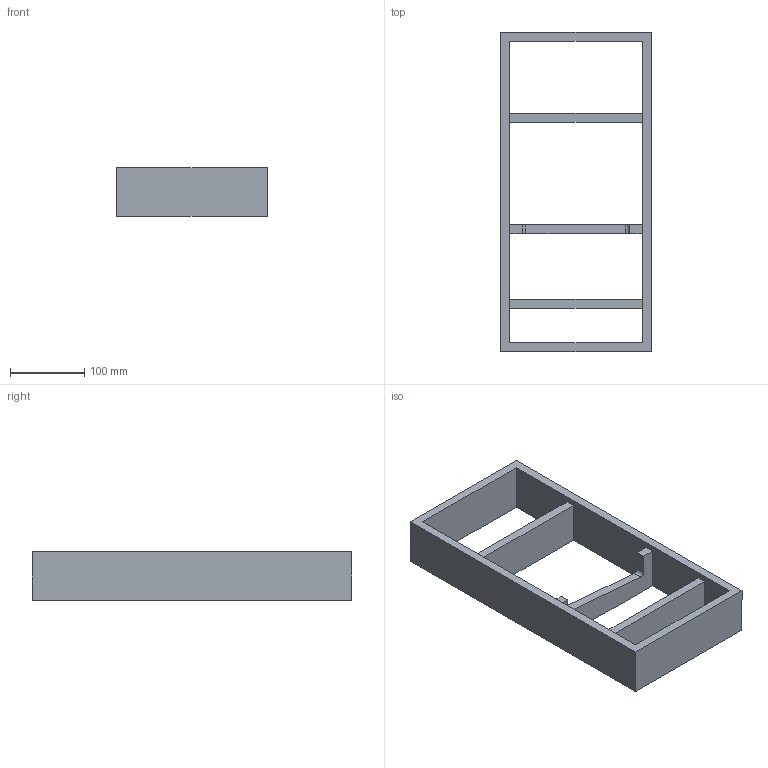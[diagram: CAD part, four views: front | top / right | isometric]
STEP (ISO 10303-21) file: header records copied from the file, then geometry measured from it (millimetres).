
FILE_DESCRIPTION (( 'STEP AP214' ), '1' );
FILE_NAME ('Vario Messer_Modul_H65_NL450_B300_19mm_Alu_Buche.step', '2010-10-07T06:11:42', ( 'grass' ), ( '' ), 'SwSTEP 2.0', 'SolidWorks 2010', '' );
FILE_SCHEMA (( 'AUTOMOTIVE_DESIGN' ));
Length unit declared in the file: millimetre
Products named in the file (1): Vario Messer_Modul_H65_NL450_B300_19mm_Alu_Buche
Bounding box: 202 x 429 x 65 mm (x, y, z)
Volume: 1267378.8 mm3; surface area: 249655.5 mm2
Topology: 1 solids, 1 shells, 25 faces, 78 edges, 52 vertices
Faces by surface type: plane 23, cylinder 2
Entity records: 906 total; most frequent: ORIENTED_EDGE 156, CARTESIAN_POINT 156, DIRECTION 134, EDGE_CURVE 78, VECTOR 74, LINE 74, VERTEX_POINT 52, EDGE_LOOP 30
